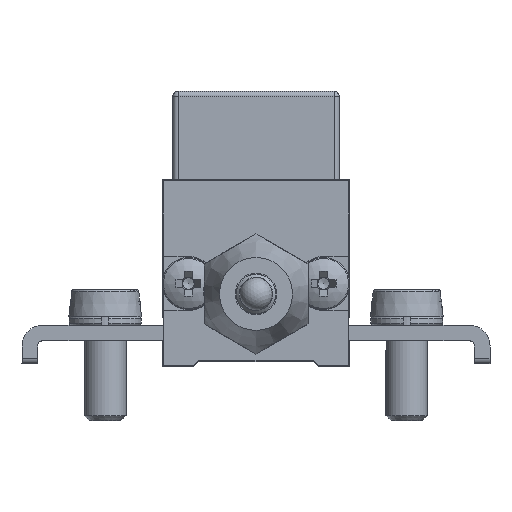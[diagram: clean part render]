
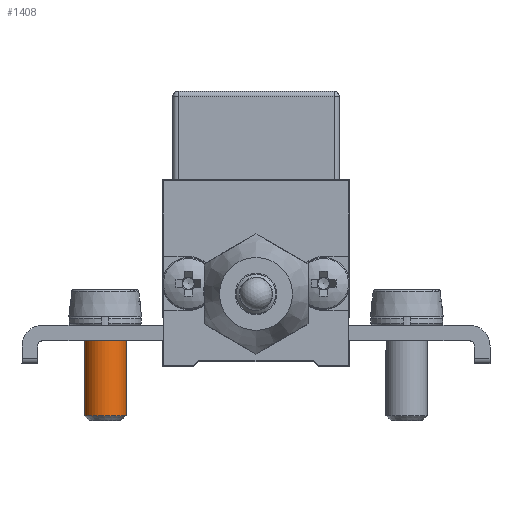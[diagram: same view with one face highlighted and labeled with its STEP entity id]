
A CAD part, front view. The second image highlights one B-rep face of the part: STEP entity #1408.
In plain terms, the highlighted cylindrical face has radius 2 mm (diameter 4 mm), a full revolution.
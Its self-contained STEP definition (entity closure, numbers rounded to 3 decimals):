
#1408 = ADVANCED_FACE( '', ( #2919, #2920 ), #2921, .T. );
#2919 = FACE_OUTER_BOUND( '', #5551, .T. );
#2920 = FACE_OUTER_BOUND( '', #5552, .T. );
#2921 = CYLINDRICAL_SURFACE( '', #5553, 2. );
#5551 = EDGE_LOOP( '', ( #9042 ) );
#5552 = EDGE_LOOP( '', ( #9043 ) );
#5553 = AXIS2_PLACEMENT_3D( '', #9044, #9045, #9046 );
#9042 = ORIENTED_EDGE( '', *, *, #10094, .T. );
#9043 = ORIENTED_EDGE( '', *, *, #10512, .T. );
#9044 = CARTESIAN_POINT( '', ( -14.5, 11., 32.8 ) );
#9045 = DIRECTION( '', ( 0., 0., -1. ) );
#9046 = DIRECTION( '', ( 1., 0., 0. ) );
#10094 = EDGE_CURVE( '', #13002, #13002, #13003, .F. );
#10512 = EDGE_CURVE( '', #13766, #13766, #13767, .T. );
#13002 = VERTEX_POINT( '', #18177 );
#13003 = CIRCLE( '', #18178, 2. );
#13766 = VERTEX_POINT( '', #19297 );
#13767 = CIRCLE( '', #19298, 2. );
#18177 = CARTESIAN_POINT( '', ( -16.5, 11., -4.7 ) );
#18178 = AXIS2_PLACEMENT_3D( '', #23312, #23313, #23314 );
#19297 = CARTESIAN_POINT( '', ( -12.5, 11., 3.8 ) );
#19298 = AXIS2_PLACEMENT_3D( '', #23923, #23924, #23925 );
#23312 = CARTESIAN_POINT( '', ( -14.5, 11., -4.7 ) );
#23313 = DIRECTION( '', ( 0., 0., -1. ) );
#23314 = DIRECTION( '', ( -1., 0., 0. ) );
#23923 = CARTESIAN_POINT( '', ( -14.5, 11., 3.8 ) );
#23924 = DIRECTION( '', ( 0., 0., -1. ) );
#23925 = DIRECTION( '', ( 1., 0., 0. ) );
